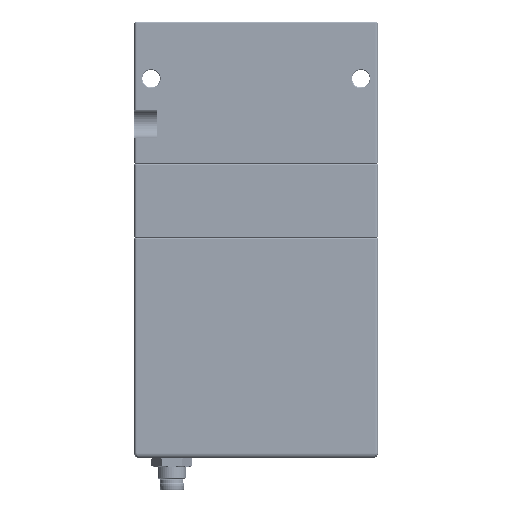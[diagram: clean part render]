
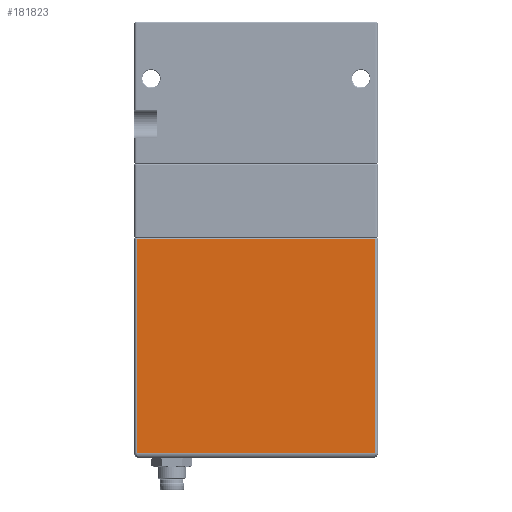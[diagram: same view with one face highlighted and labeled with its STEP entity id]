
A CAD part, front view. The second image highlights one B-rep face of the part: STEP entity #181823.
In plain terms, the highlighted planar face has unit normal (0, -1, 0).
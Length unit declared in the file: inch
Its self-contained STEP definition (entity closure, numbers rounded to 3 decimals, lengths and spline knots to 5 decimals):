
#7091 = CARTESIAN_POINT ( 'NONE',  ( -1.34375, -0.75, 2.25 ) ) ;
#11427 = EDGE_CURVE ( 'NONE', #255796, #198269, #170035, .T. ) ;
#13375 = VERTEX_POINT ( 'NONE', #38254 ) ;
#14201 = LINE ( 'NONE', #220125, #188862 ) ;
#29185 = EDGE_LOOP ( 'NONE', ( #230458, #208393, #157109, #66208 ) ) ;
#31628 = DIRECTION ( 'NONE',  ( 0., 0., -1. ) ) ;
#38254 = CARTESIAN_POINT ( 'NONE',  ( -1.3125, -0.75, 0.0625 ) ) ;
#62357 = VECTOR ( 'NONE', #31628, 39.37008 ) ;
#63903 = DIRECTION ( 'NONE',  ( 0., 0., 1. ) ) ;
#66208 = ORIENTED_EDGE ( 'NONE', *, *, #233120, .T. ) ;
#74885 = DIRECTION ( 'NONE',  ( 1., 0., 0. ) ) ;
#95379 = LINE ( 'NONE', #175981, #249964 ) ;
#112599 = DIRECTION ( 'NONE',  ( -1., 0., 0. ) ) ;
#118901 = CARTESIAN_POINT ( 'NONE',  ( 1.3125, -0.75, 0.0625 ) ) ;
#123322 = DIRECTION ( 'NONE',  ( 0., 1., 0. ) ) ;
#127202 = CARTESIAN_POINT ( 'NONE',  ( -1.3125, -0.75, 2.425 ) ) ;
#128041 = CARTESIAN_POINT ( 'NONE',  ( 1.3125, -0.75, 2.425 ) ) ;
#137273 = VERTEX_POINT ( 'NONE', #127202 ) ;
#145755 = PLANE ( 'NONE',  #184905 ) ;
#151784 = LINE ( 'NONE', #232351, #62357 ) ;
#157109 = ORIENTED_EDGE ( 'NONE', *, *, #220569, .T. ) ;
#170035 = LINE ( 'NONE', #217521, #183350 ) ;
#171352 = DIRECTION ( 'NONE',  ( 0., 0., 1. ) ) ;
#175981 = CARTESIAN_POINT ( 'NONE',  ( -1.3125, -0.75, 2.425 ) ) ;
#181823 = ADVANCED_FACE ( 'NONE', ( #182810 ), #145755, .F. ) ;
#182810 = FACE_OUTER_BOUND ( 'NONE', #29185, .T. ) ;
#183350 = VECTOR ( 'NONE', #171352, 39.37008 ) ;
#184905 = AXIS2_PLACEMENT_3D ( 'NONE', #7091, #123322, #63903 ) ;
#188862 = VECTOR ( 'NONE', #74885, 39.37008 ) ;
#198269 = VERTEX_POINT ( 'NONE', #128041 ) ;
#208393 = ORIENTED_EDGE ( 'NONE', *, *, #245394, .T. ) ;
#217521 = CARTESIAN_POINT ( 'NONE',  ( 1.3125, -0.75, 2.25 ) ) ;
#220125 = CARTESIAN_POINT ( 'NONE',  ( 1.3125, -0.75, 0.0625 ) ) ;
#220569 = EDGE_CURVE ( 'NONE', #137273, #13375, #151784, .T. ) ;
#230458 = ORIENTED_EDGE ( 'NONE', *, *, #11427, .T. ) ;
#232351 = CARTESIAN_POINT ( 'NONE',  ( -1.3125, -0.75, 2.25 ) ) ;
#233120 = EDGE_CURVE ( 'NONE', #13375, #255796, #14201, .T. ) ;
#245394 = EDGE_CURVE ( 'NONE', #198269, #137273, #95379, .T. ) ;
#249964 = VECTOR ( 'NONE', #112599, 39.37008 ) ;
#255796 = VERTEX_POINT ( 'NONE', #118901 ) ;
